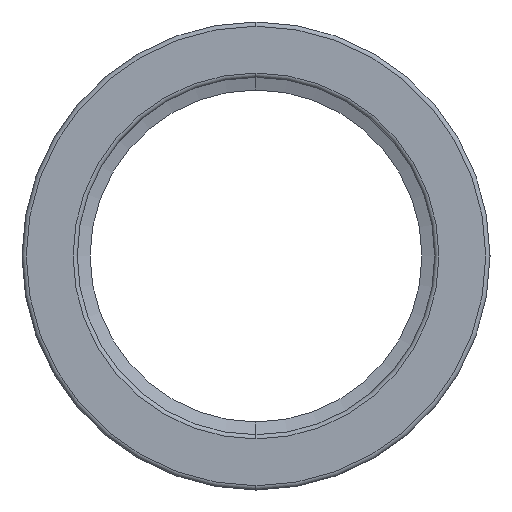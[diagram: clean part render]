
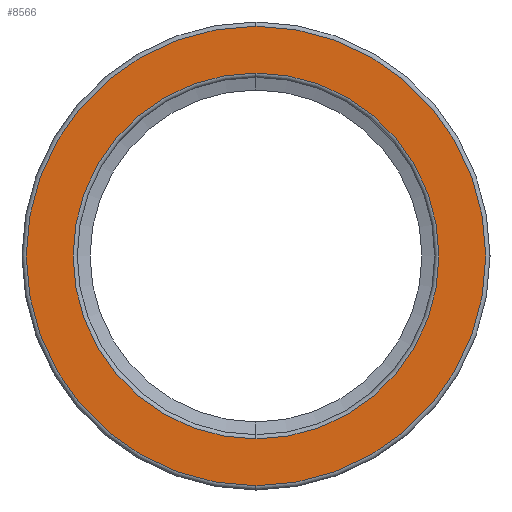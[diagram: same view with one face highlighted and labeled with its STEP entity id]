
A CAD part, left-side view. The second image highlights one B-rep face of the part: STEP entity #8566.
In plain terms, the highlighted planar face has unit normal (-1, 0, 0).
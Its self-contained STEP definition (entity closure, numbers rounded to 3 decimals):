
#665 = EDGE_LOOP ( 'NONE', ( #5005, #11292 ) ) ;
#929 = CARTESIAN_POINT ( 'NONE',  ( -30., 27.5, 0. ) ) ;
#984 = CARTESIAN_POINT ( 'NONE',  ( -30., 0., 0. ) ) ;
#1492 = CARTESIAN_POINT ( 'NONE',  ( -30., 0., 27. ) ) ;
#1914 = AXIS2_PLACEMENT_3D ( 'NONE', #984, #8540, #2104 ) ;
#2104 = DIRECTION ( 'NONE',  ( 0., 0., -1. ) ) ;
#2651 = CIRCLE ( 'NONE', #7270, 27. ) ;
#2762 = CARTESIAN_POINT ( 'NONE',  ( -30., 0., 0. ) ) ;
#2825 = FACE_OUTER_BOUND ( 'NONE', #665, .T. ) ;
#2875 = VERTEX_POINT ( 'NONE', #3218 ) ;
#3123 = PLANE ( 'NONE',  #8877 ) ;
#3218 = CARTESIAN_POINT ( 'NONE',  ( -30., 0., 21.5 ) ) ;
#3821 = DIRECTION ( 'NONE',  ( 0., 0., -1. ) ) ;
#4192 = DIRECTION ( 'NONE',  ( 0., 0., -1. ) ) ;
#4902 = ORIENTED_EDGE ( 'NONE', *, *, #12119, .T. ) ;
#4990 = DIRECTION ( 'NONE',  ( 1., 0., 0. ) ) ;
#5005 = ORIENTED_EDGE ( 'NONE', *, *, #10663, .T. ) ;
#5371 = CARTESIAN_POINT ( 'NONE',  ( -30., 0., 0. ) ) ;
#5435 = AXIS2_PLACEMENT_3D ( 'NONE', #11665, #4990, #12793 ) ;
#5836 = EDGE_CURVE ( 'NONE', #10561, #12191, #2651, .T. ) ;
#5966 = DIRECTION ( 'NONE',  ( 0., 0., -1. ) ) ;
#5996 = DIRECTION ( 'NONE',  ( -1., 0., 0. ) ) ;
#6371 = CIRCLE ( 'NONE', #10833, 27. ) ;
#6384 = EDGE_CURVE ( 'NONE', #11991, #2875, #13490, .T. ) ;
#7270 = AXIS2_PLACEMENT_3D ( 'NONE', #5371, #5996, #5966 ) ;
#8540 = DIRECTION ( 'NONE',  ( 1., 0., 0. ) ) ;
#8566 = ADVANCED_FACE ( 'NONE', ( #11261, #2825 ), #3123, .F. ) ;
#8877 = AXIS2_PLACEMENT_3D ( 'NONE', #929, #10822, #4192 ) ;
#9124 = ORIENTED_EDGE ( 'NONE', *, *, #6384, .T. ) ;
#9428 = CIRCLE ( 'NONE', #5435, 21.5 ) ;
#9628 = EDGE_LOOP ( 'NONE', ( #9124, #4902 ) ) ;
#10400 = DIRECTION ( 'NONE',  ( -1., 0., 0. ) ) ;
#10561 = VERTEX_POINT ( 'NONE', #1492 ) ;
#10663 = EDGE_CURVE ( 'NONE', #12191, #10561, #6371, .T. ) ;
#10822 = DIRECTION ( 'NONE',  ( 1., 0., 0. ) ) ;
#10833 = AXIS2_PLACEMENT_3D ( 'NONE', #2762, #10400, #3821 ) ;
#10863 = CARTESIAN_POINT ( 'NONE',  ( -30., 0., -27. ) ) ;
#11261 = FACE_BOUND ( 'NONE', #9628, .T. ) ;
#11292 = ORIENTED_EDGE ( 'NONE', *, *, #5836, .T. ) ;
#11665 = CARTESIAN_POINT ( 'NONE',  ( -30., 0., 0. ) ) ;
#11991 = VERTEX_POINT ( 'NONE', #12543 ) ;
#12119 = EDGE_CURVE ( 'NONE', #2875, #11991, #9428, .T. ) ;
#12191 = VERTEX_POINT ( 'NONE', #10863 ) ;
#12543 = CARTESIAN_POINT ( 'NONE',  ( -30., 0., -21.5 ) ) ;
#12793 = DIRECTION ( 'NONE',  ( 0., 0., -1. ) ) ;
#13490 = CIRCLE ( 'NONE', #1914, 21.5 ) ;
